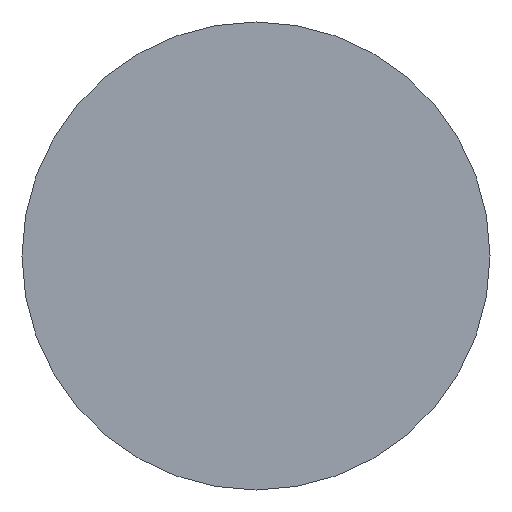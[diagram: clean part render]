
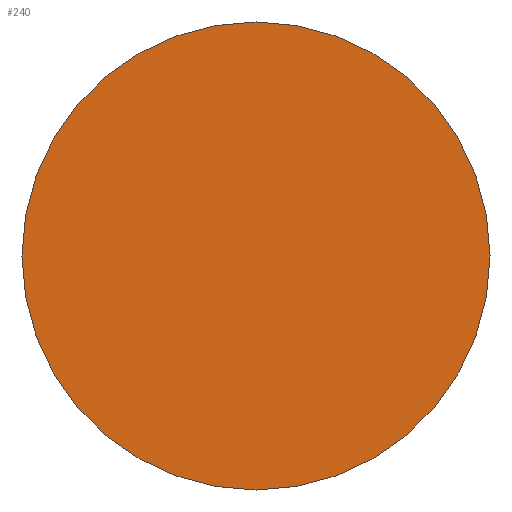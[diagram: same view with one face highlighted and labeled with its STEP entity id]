
A CAD part, left-side view. The second image highlights one B-rep face of the part: STEP entity #240.
In plain terms, the highlighted planar face has unit normal (-1, 0, 0).
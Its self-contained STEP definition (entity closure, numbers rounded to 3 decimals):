
#21 = CARTESIAN_POINT ( 'NONE',  ( 0., 0., 0. ) ) ;
#26 = DIRECTION ( 'NONE',  ( -1., 0., 0. ) ) ;
#39 = CARTESIAN_POINT ( 'NONE',  ( 0., 9., 0. ) ) ;
#51 = PLANE ( 'NONE',  #137 ) ;
#52 = AXIS2_PLACEMENT_3D ( 'NONE', #136, #177, #74 ) ;
#55 = EDGE_LOOP ( 'NONE', ( #133, #144 ) ) ;
#62 = DIRECTION ( 'NONE',  ( 0., 1., 0. ) ) ;
#74 = DIRECTION ( 'NONE',  ( 0., 1., 0. ) ) ;
#84 = AXIS2_PLACEMENT_3D ( 'NONE', #111, #127, #62 ) ;
#98 = CARTESIAN_POINT ( 'NONE',  ( 0., -9., 0. ) ) ;
#111 = CARTESIAN_POINT ( 'NONE',  ( 0., 0., 0. ) ) ;
#127 = DIRECTION ( 'NONE',  ( 1., 0., 0. ) ) ;
#133 = ORIENTED_EDGE ( 'NONE', *, *, #202, .F. ) ;
#134 = EDGE_CURVE ( 'NONE', #191, #158, #141, .T. ) ;
#136 = CARTESIAN_POINT ( 'NONE',  ( 0., 0., 0. ) ) ;
#137 = AXIS2_PLACEMENT_3D ( 'NONE', #21, #26, #219 ) ;
#141 = CIRCLE ( 'NONE', #52, 9. ) ;
#144 = ORIENTED_EDGE ( 'NONE', *, *, #134, .F. ) ;
#158 = VERTEX_POINT ( 'NONE', #39 ) ;
#177 = DIRECTION ( 'NONE',  ( 1., 0., 0. ) ) ;
#191 = VERTEX_POINT ( 'NONE', #98 ) ;
#202 = EDGE_CURVE ( 'NONE', #158, #191, #268, .T. ) ;
#219 = DIRECTION ( 'NONE',  ( 0., -1., 0. ) ) ;
#240 = ADVANCED_FACE ( 'NONE', ( #266 ), #51, .T. ) ;
#266 = FACE_OUTER_BOUND ( 'NONE', #55, .T. ) ;
#268 = CIRCLE ( 'NONE', #84, 9. ) ;
